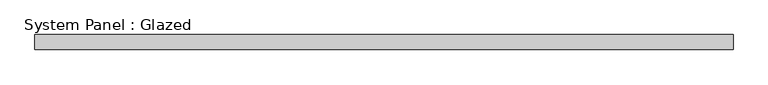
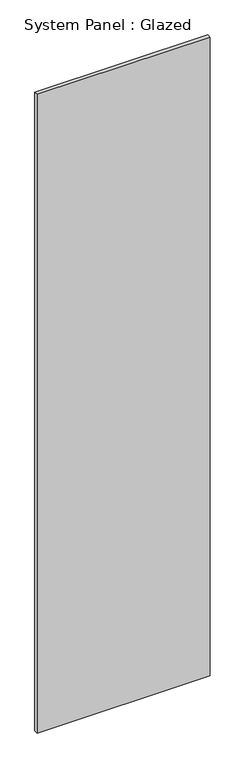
"""IFC4 building model written with IfcOpenShell, lengths in millimetres: plate geometry, System Panel : Glazed."""

from ifc_helpers import new_model, si_unit, origin, origin_with_axes, place, context, project, spatial, polyline, outline, extrude, source, transform, mapped, element, save


def system_panel_glazed_908aa4c7(model_context):
    return source(origin(), model_context, "Body", "SweptSolid", [
        extrude(outline(polyline([(593.725, 19.05), (-593.725, 19.05), (-593.725, 44.45), (593.725, 44.45), (593.725, 19.05)])), origin_with_axes(), (0.0, 0.0, 1.0), 4629.15),
    ])


if __name__ == "__main__":
    model = new_model("IFC4")
    model_context = context("Model", 3, world=origin())
    ifc_project = project(units=[si_unit("LENGTHUNIT", "METRE", prefix="MILLI")], contexts=[model_context])
    site = spatial("IfcSite", under=ifc_project)
    building = spatial("IfcBuilding", under=site)
    placement = place(None, origin())
    system_panel_glazed_shape = system_panel_glazed_908aa4c7(model_context)
    element("IfcPlate", 1, ObjectType="System Panel : Glazed", at=placement, inside=building, context=model_context, shape_type="MappedRepresentation", body=[
        mapped(system_panel_glazed_shape, transform((0.0, 0.0, 0.0), x_axis=(1.0, 0.0, 0.0), y_axis=(0.0, 1.0, 0.0), z_axis=(0.0, 0.0, 1.0))),
    ])
    save(model, "model.ifc")
